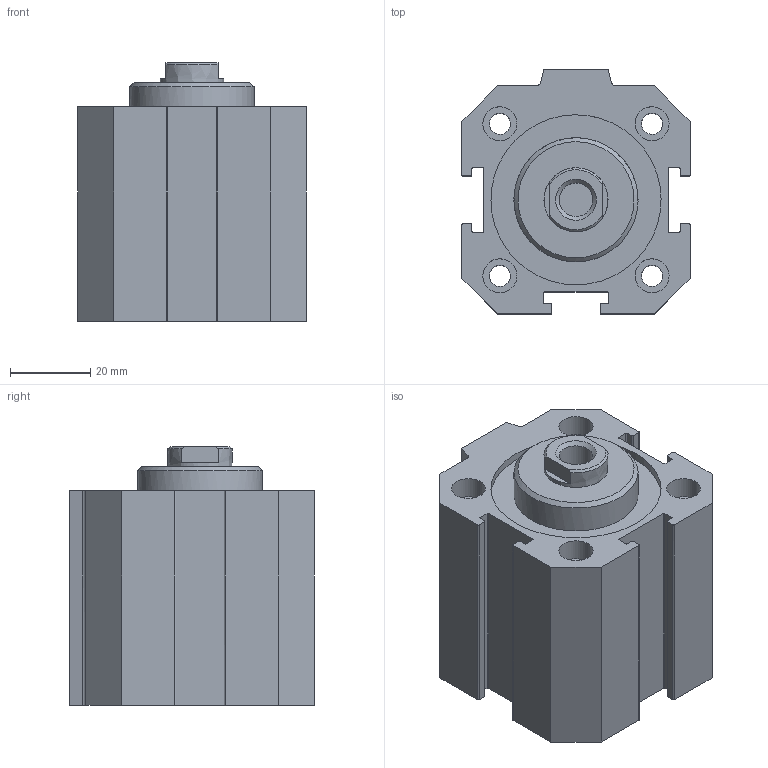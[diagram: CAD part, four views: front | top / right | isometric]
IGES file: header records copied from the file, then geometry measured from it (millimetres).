
Global section: file name: 1511_40_0015; native system: Autodesk Inventor 2014; preprocessor: unknown; author: A. Manieri; date: 20160824.120029; units: millimetre
Bounding box: 57 x 61 x 64.5 mm (x, y, z)
Volume: 135112.3 mm3; surface area: 39143.7 mm2
Topology: 2 solids, 2 shells, 117 faces, 300 edges, 205 vertices
Faces by surface type: bspline 117
